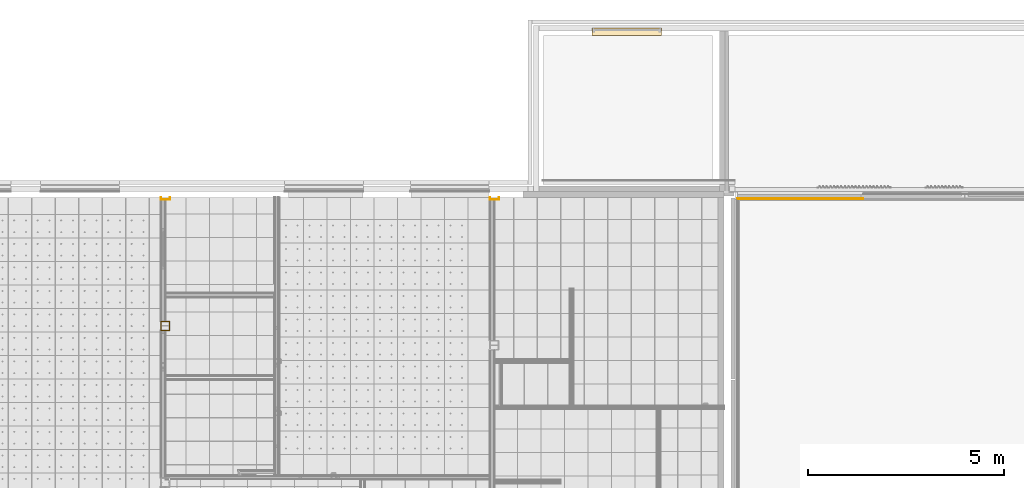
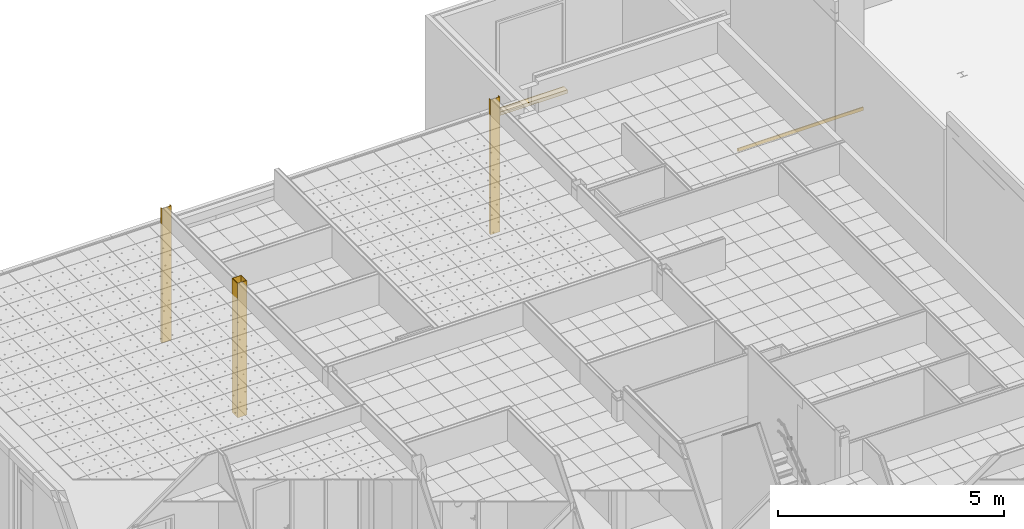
# One storey, part 120 of 338: 5 coverings.
"""IFC2X3 building model written with IfcOpenShell, lengths in millimetres."""

from ifc_helpers import new_model, entity, si_unit, converted_unit, derived_unit, money_unit, direction, frame, origin_with_axes, place, context, subcontext, project, spatial, faceted_brep, material, type_object, element, save


model = new_model("IFC2X3")

# Units and contexts
model_context = context("Model", 3, precision=0.01, world=origin_with_axes(), true_north=direction((0.0, 1.0)))
plan_context = context("Plan", 3, precision=0.01, world=origin_with_axes(), true_north=direction((0.0, 1.0)))
body_context = subcontext(model_context, "Body", "Model", "MODEL_VIEW")
ifc_project = project(units=[si_unit("LENGTHUNIT", "METRE", prefix="MILLI"), si_unit("AREAUNIT", "SQUARE_METRE"), si_unit("VOLUMEUNIT", "CUBIC_METRE"), converted_unit("PLANEANGLEUNIT", "DEGREE", entity("IfcPlaneAngleMeasure", 0.0174532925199), si_unit("PLANEANGLEUNIT", "RADIAN"), dimensions=[0, 0, 0, 0, 0, 0, 0]), money_unit("EUR"), converted_unit("TIMEUNIT", "Year", entity("IfcTimeMeasure", 31556926.0), si_unit("TIMEUNIT", "SECOND"), dimensions=[0, 0, 1, 0, 0, 0, 0]), si_unit("MASSUNIT", "GRAM", prefix="KILO"), si_unit("THERMODYNAMICTEMPERATUREUNIT", "DEGREE_CELSIUS"), si_unit("LUMINOUSINTENSITYUNIT", "LUMEN"), si_unit("ENERGYUNIT", "JOULE", prefix="MEGA"), derived_unit("THERMALCONDUCTANCEUNIT", [(si_unit("POWERUNIT", "WATT"), 1), (si_unit("LENGTHUNIT", "METRE"), -1), (si_unit("THERMODYNAMICTEMPERATUREUNIT", "KELVIN"), -1)]), derived_unit("SPECIFICHEATCAPACITYUNIT", [(si_unit("ENERGYUNIT", "JOULE"), 1), (si_unit("MASSUNIT", "GRAM", prefix="KILO"), -1), (si_unit("THERMODYNAMICTEMPERATUREUNIT", "KELVIN"), -1)]), derived_unit("MASSDENSITYUNIT", [(si_unit("MASSUNIT", "GRAM", prefix="KILO"), 1), (si_unit("VOLUMEUNIT", "CUBIC_METRE"), -1)])], contexts=[model_context, plan_context])

# Site, building, storey
site_placement = place(None, origin_with_axes())
site = spatial("IfcSite", under=ifc_project, at=site_placement, Name="Fortuinstraat Woensdrecht", CompositionType="ELEMENT")
building_placement = place(site_placement, origin_with_axes())
building = spatial("IfcBuilding", under=site, at=building_placement, Name="IKC Fortuna", CompositionType="ELEMENT")
storey_placement = place(building_placement, origin_with_axes())
storey = spatial("IfcBuildingStorey", under=building, at=storey_placement, Name="00 begane grond", CompositionType="ELEMENT", Elevation=0.0)

# Coverings
ifc_material_1 = material(Name="Brandwering")
covering_type_1 = type_object("IfcCoveringType", Name="42 Omtimmering kolom 235 x 245", PredefinedType="CLADDING")
covering_1_placement = place(storey_placement, frame((20569.4349765, 35402.2966282, 0.0), z_axis=(0.0, 0.0, 1.0), x_axis=(0.0, 1.0, 0.0)))
element("IfcCovering", 1, at=covering_1_placement, inside=storey, type_object=covering_type_1, material=ifc_material_1, Name="42_Wandafwerking_omtimmering kolom", PredefinedType="CLADDING", context=body_context, shape_type="Brep", body=[
    faceted_brep([(-105.0, 110.0, 0.0), (-56.0, 110.0, 0.0), (-56.0, 110.0, 3635.0), (-105.0, 110.0, 3635.0), (-117.5, 122.5, 0.0), (-56.0, 122.5, 0.0), (-105.0, -110.0, 0.0), (-55.9999999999, -110.0, 0.0), (-55.9999999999, -122.5, 0.0), (-117.5, -122.5, 0.0), (-56.0, 122.5, 3635.0), (-117.5, 122.5, 3635.0), (-117.5, -122.5, 3635.0), (-55.9999999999, -122.5, 3635.0), (-55.9999999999, -110.0, 3635.0), (-105.0, -110.0, 3635.0)], [[[0, 1, 2, 3]], [[4, 5, 1, 0, 6, 7, 8, 9]], [[5, 10, 2, 1]], [[3, 2, 10, 11, 12, 13, 14, 15]], [[3, 15, 6, 0]], [[11, 10, 5, 4]], [[15, 14, 7, 6]], [[7, 14, 13, 8]], [[9, 8, 13, 12]], [[12, 11, 4, 9]]]),
])
covering_2_placement = place(storey_placement, frame((20569.4349765, 32067.2966283, 0.0), z_axis=(0.0, 0.0, 1.0), x_axis=(1.0, 0.0, 0.0)))
element("IfcCovering", 2, at=covering_2_placement, inside=storey, type_object=covering_type_1, material=ifc_material_1, Name="42_Wandafwerking_omtimmering kolom", PredefinedType="CLADDING", context=body_context, shape_type="Brep", body=[
    faceted_brep([(-117.5, 122.5, 3635.0), (-117.5, 122.5, 0.0), (-117.5, -122.5, 0.0), (-117.5, -122.5, 3635.0), (117.5, 122.5, 3635.0), (117.5, 122.5, 0.0), (117.5, -122.5, 0.0), (105.0, -110.0, 0.0), (105.0, 110.0, 0.0), (-105.0, 110.0, 0.0), (-105.0, -110.0, 0.0), (117.5, -122.5, 3635.0), (-105.0, 110.0, 3635.0), (105.0, 110.0, 3635.0), (105.0, -110.0, 3635.0), (-105.0, -110.0, 3635.0)], [[[0, 1, 2, 3]], [[4, 5, 1, 0]], [[2, 1, 5, 6], [7, 8, 9, 10]], [[3, 2, 6, 11]], [[4, 0, 3, 11], [12, 13, 14, 15]], [[11, 6, 5, 4]], [[13, 8, 7, 14]], [[12, 9, 8, 13]], [[15, 10, 9, 12]], [[14, 7, 10, 15]]]),
])
covering_3_placement = place(storey_placement, frame((28969.4349765, 35402.2966282, -13.7681356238), z_axis=(0.0, 0.0, 1.0), x_axis=(0.0, 1.0, 0.0)))
element("IfcCovering", 3, at=covering_3_placement, inside=storey, type_object=covering_type_1, material=ifc_material_1, Name="42_Wandafwerking_omtimmering kolom", PredefinedType="CLADDING", context=body_context, shape_type="Brep", body=[
    faceted_brep([(-56.0, 122.5, 0.0), (-55.9999999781, 122.500017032, 2806.76813562), (-56.0, 111.799923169, 2806.76813562), (-56.0, 111.799923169, 3016.76813562), (-55.9999999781, 122.500017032, 3016.76813562), (-56.0, 122.5, 3648.76813562), (-56.0, 110.0, 3648.76813562), (-56.0, 110.0, 0.0), (-56.3477534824, 122.5, 3016.76813562), (-56.3477534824, 122.5, 2806.76813562), (-117.5, 122.5, 0.0), (-117.5, 122.5, 3648.76813562), (-56.3477534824, 111.799923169, 2806.76813562), (-56.3477534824, 111.799923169, 3016.76813562), (-105.0, -110.0, 3648.76813562), (-105.0, 110.0, 3648.76813562), (-117.5, -122.5, 3648.76813562), (-56.0, -122.5, 3648.76813562), (-56.0, -110.0, 3648.76813562), (-105.0, 110.0, 0.0), (-117.5, -122.5, 0.0), (-105.0, -110.0, 0.0), (-56.0, -110.0, 0.0), (-56.0, -122.5, 0.0)], [[[0, 1, 2, 3, 4, 5, 6, 7]], [[8, 9, 1, 0, 10, 11, 5, 4]], [[12, 2, 1, 9]], [[13, 3, 2, 12]], [[8, 4, 3, 13]], [[14, 15, 6, 5, 11, 16, 17, 18]], [[15, 19, 7, 6]], [[20, 10, 0, 7, 19, 21, 22, 23]], [[12, 9, 8, 13]], [[20, 16, 11, 10]], [[19, 15, 14, 21]], [[16, 20, 23, 17]], [[23, 22, 18, 17]], [[21, 14, 18, 22]]]),
])
ifc_material_2 = material(Name="Beton gewapend prefab")
covering_type_2 = type_object("IfcCoveringType", Name="41 dorpel d bi berging 192 x 95", PredefinedType="NOTDEFINED")
covering_4_placement = place(storey_placement, frame((31465.4219466, 39596.2966283, -190.0), z_axis=(0.0, 0.0, 1.0), x_axis=(1.0, 0.0, 0.0)))
element("IfcCovering", 4, at=covering_4_placement, inside=storey, type_object=covering_type_2, material=ifc_material_2, Name="41_Afwerking_Waterslag", PredefinedType="NOTDEFINED", context=body_context, shape_type="Brep", body=[
    faceted_brep([(0.0, 72.0, -2.13724670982), (1770.0, 72.0, -2.13724670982), (1770.0, 72.0, -72.5), (0.0, 72.0, -72.5), (0.0, 21.0, 2.5), (1770.0, 21.0, 2.5), (1770.0, 21.0, 22.5), (1770.0, -120.0, 22.5), (1770.0, -120.0, -72.5), (0.0, -120.0, -72.5), (0.0, -120.0, 22.5), (0.0, 21.0, 22.5)], [[[0, 1, 2, 3]], [[4, 5, 1, 0]], [[2, 1, 5, 6, 7, 8]], [[3, 2, 8, 9]], [[4, 0, 3, 9, 10, 11]], [[11, 6, 5, 4]], [[10, 7, 6, 11]], [[9, 8, 7, 10]]]),
])
ifc_material_3 = material(Name="Hout - Multiplex 90")
covering_type_3 = type_object("IfcCoveringType", Name="Hout - Multiplex 90 24 x 90", PredefinedType="CLADDING")
covering_5_placement = place(storey_placement, frame((35174.9270571, 35325.2966282, 0.0), z_axis=(0.0, 0.0, 1.0), x_axis=(0.0, -1.0, 0.0)))
element("IfcCovering", 5, at=covering_5_placement, inside=storey, type_object=covering_type_3, material=ifc_material_3, Name="42_Wandafwerking_Plint", PredefinedType="CLADDING", context=body_context, shape_type="Brep", body=[
    faceted_brep([(24.0, 3218.49999994, 0.0), (24.0, 24.0, 0.0), (0.0, 0.0, 0.0), (0.0, 3218.49999994, 0.0), (24.0, 3218.49999994, 90.0), (24.0, 24.0, 90.0), (0.0, 0.0, 90.0), (0.0, 3218.49999994, 90.0)], [[[0, 1, 2, 3]], [[4, 5, 1, 0]], [[1, 5, 6, 2]], [[3, 2, 6, 7]], [[7, 4, 0, 3]], [[7, 6, 5, 4]]]),
])

save(model, "model.ifc")
